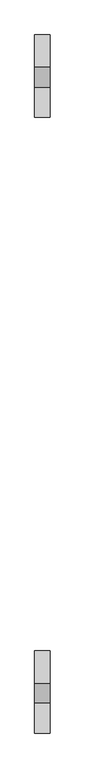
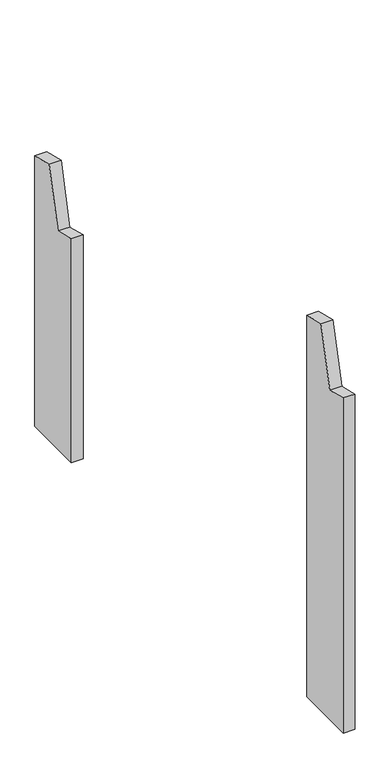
"""IFC4 building model written with IfcOpenShell, lengths in millimetres: proxy geometry, Modelos genéricos 88 : Modelos genéricos 5."""

from ifc_helpers import new_model, si_unit, frame, origin, place, context, project, spatial, polyline, outline, extrude, source, transform, mapped, element, save


def generic_models_bc5f4990(model_context):
    return source(origin(), model_context, "Body", "SweptSolid", [
        extrude(outline(polyline([(3268.6238165, 3000.0), (3268.6238165, 3898.0915281), (3326.8415601, 3883.5762143), (3365.5490634, 4038.8235305), (3428.6238165, 4023.0972283), (3428.6238165, 3000.0), (3268.6238165, 3000.0)])), frame((1983.4472467, 0.0, 0.0), z_axis=(1.0, 0.0, 0.0), x_axis=(0.0, 1.0, 0.0)), (0.0, 0.0, 1.0), 30.0),
        extrude(outline(polyline([(4463.6238165, 3000.0), (4463.6238165, 3600.1445647), (4521.8415601, 3585.6292509), (4560.5490634, 3740.8765671), (4623.6238165, 3725.1502649), (4623.6238165, 3000.0), (4463.6238165, 3000.0)])), frame((1983.4472467, 0.0, 0.0), z_axis=(1.0, 0.0, 0.0), x_axis=(0.0, 1.0, 0.0)), (0.0, 0.0, 1.0), 30.0),
    ])


if __name__ == "__main__":
    model = new_model("IFC4")
    model_context = context("Model", 3, world=origin())
    ifc_project = project(units=[si_unit("LENGTHUNIT", "METRE", prefix="MILLI")], contexts=[model_context])
    site = spatial("IfcSite", under=ifc_project)
    building = spatial("IfcBuilding", under=site)
    placement = place(None, origin())
    generic_models_shape = generic_models_bc5f4990(model_context)
    element("IfcBuildingElementProxy", 1, Name="Modelos genéricos 88 : Modelos genéricos 5", ObjectType="Modelos genéricos 88 : Modelos genéricos 5", at=placement, inside=building, context=model_context, shape_type="MappedRepresentation", body=[
        mapped(generic_models_shape, transform((0.0, 0.0, 0.0), x_axis=(1.0, 0.0, 0.0), y_axis=(0.0, 1.0, 0.0), z_axis=(0.0, 0.0, 1.0))),
    ])
    save(model, "model.ifc")
